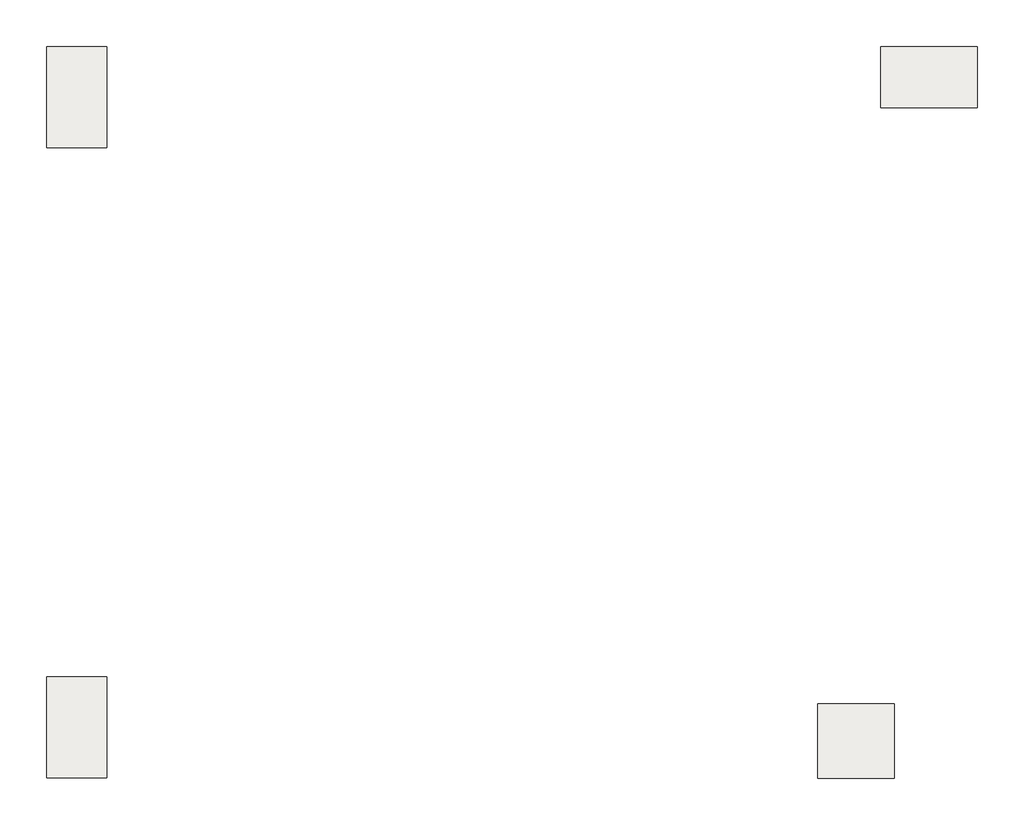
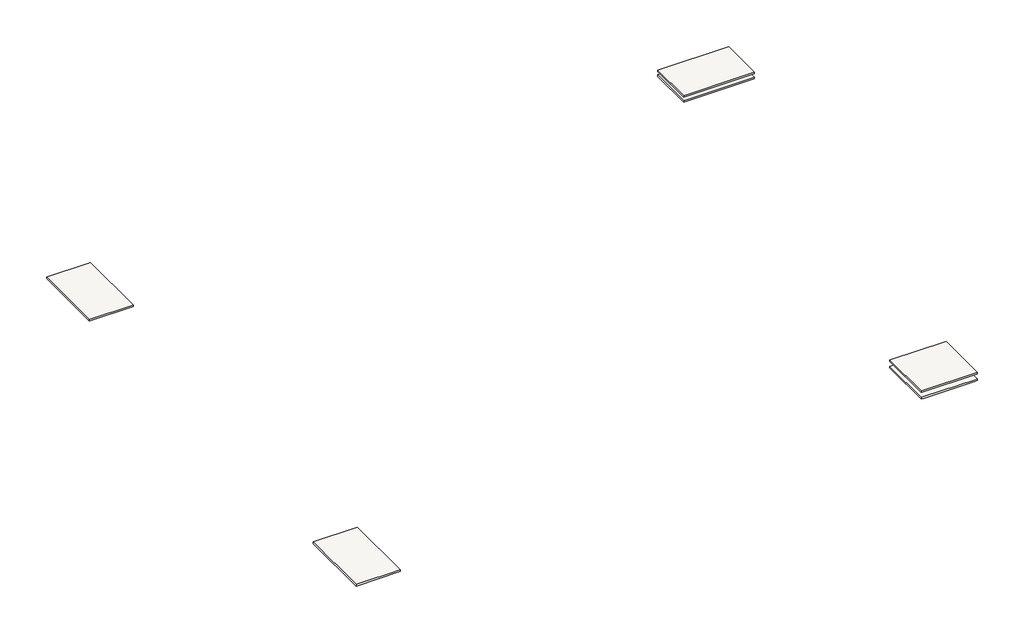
# One storey: 6 slabs.
"""IFC4 building model written with IfcOpenShell, lengths in millimetres."""

from ifc_helpers import new_model, si_unit, frame, origin, place, context, project, spatial, polyline, outline, extrude, faceted_brep, element, save

model = new_model("IFC4")

# Units and contexts
model_context = context("Model", 3, world=origin())
ifc_project = project(units=[si_unit("LENGTHUNIT", "METRE", prefix="MILLI")], contexts=[model_context])

# Site, building, storey
site = spatial("IfcSite", under=ifc_project)
building = spatial("IfcBuilding", under=site)
storey = spatial("IfcBuildingStorey", under=building, Name="Mumpty", Elevation=17400.0)

# Slabs
placement = place(None, origin())
element("IfcSlab", 1, ObjectType="RCC Slab", at=placement, inside=storey, context=model_context, shape_type="Brep", body=[
    faceted_brep([(28557.4134101, -21057.6148653, 17250.0), (33492.4134101, -21057.6148653, 17250.0), (33492.4134101, -21299.6148653, 17250.0), (33492.4134101, -25834.6148653, 17250.0), (33247.4134101, -25834.6148653, 17250.0), (28799.4134101, -25834.6148653, 17250.0), (28557.4134101, -25834.6148653, 17250.0), (28557.4134101, -21299.6148653, 17250.0), (28557.4134101, -21057.6148653, 17400.0), (28557.4134101, -21299.6148653, 17400.0), (28557.4134101, -25834.6148653, 17400.0), (28799.4134101, -25834.6148653, 17400.0), (33247.4134101, -25834.6148653, 17400.0), (33492.4134101, -25834.6148653, 17400.0), (33492.4134101, -21299.6148653, 17400.0), (33492.4134101, -21057.6148653, 17400.0)], [[[0, 1, 2, 3, 4, 5, 6, 7]], [[8, 9, 10, 11, 12, 13, 14, 15]], [[1, 0, 8, 15]], [[3, 2, 1, 15, 14, 13]], [[6, 5, 4, 3, 13, 12, 11, 10]], [[0, 7, 6, 10, 9, 8]]]),
])
element("IfcSlab", 2, ObjectType="RCC Slab", at=placement, inside=storey, context=model_context, shape_type="SweptSolid", body=[
    extrude(outline(polyline([(28557.4134101, -21057.6148653), (33492.4134101, -21057.6148653), (33492.4134101, -25834.6148653), (28557.4134101, -25834.6148653), (28557.4134101, -21057.6148653)])), frame((0.0, 0.0, 17850.0), z_axis=(0.0, 0.0, 1.0), x_axis=(1.0, 0.0, 0.0)), (0.0, 0.0, 1.0), 150.0),
])
element("IfcSlab", 3, ObjectType="RCC Slab", at=placement, inside=storey, context=model_context, shape_type="SweptSolid", body=[
    extrude(outline(polyline([(-17192.5865899, -25822.6148653), (-21051.0865899, -25822.6148653), (-21051.0865899, -19327.6148653), (-17192.5865899, -19327.6148653), (-17192.5865899, -25822.6148653)])), frame((0.0, 0.0, 17250.0), z_axis=(0.0, 0.0, 1.0), x_axis=(1.0, 0.0, 0.0)), (0.0, 0.0, 1.0), 150.0),
])
element("IfcSlab", 4, ObjectType="RCC Slab", at=placement, inside=storey, context=model_context, shape_type="Brep", body=[
    faceted_brep([(-17192.5865899, 21247.3851347, 17250.0), (-17192.5865899, 14752.3851347, 17250.0), (-17449.5865899, 14752.3851347, 17250.0), (-20909.0865899, 14752.3851347, 17250.0), (-21051.0865899, 14752.3851347, 17250.0), (-21051.0865899, 21247.3851347, 17250.0), (-20909.0865899, 21247.3851347, 17250.0), (-17449.5865899, 21247.3851347, 17250.0), (-17192.5865899, 21247.3851347, 17400.0), (-17449.5865899, 21247.3851347, 17400.0), (-20909.0865899, 21247.3851347, 17400.0), (-21051.0865899, 21247.3851347, 17400.0), (-21051.0865899, 14752.3851347, 17400.0), (-20909.0865899, 14752.3851347, 17400.0), (-17449.5865899, 14752.3851347, 17400.0), (-17192.5865899, 14752.3851347, 17400.0)], [[[0, 1, 2, 3, 4, 5, 6, 7]], [[8, 9, 10, 11, 12, 13, 14, 15]], [[1, 0, 8, 15]], [[4, 3, 2, 1, 15, 14, 13, 12]], [[5, 4, 12, 11]], [[0, 7, 6, 5, 11, 10, 9, 8]]]),
])
element("IfcSlab", 5, ObjectType="RCC Slab", at=placement, inside=storey, context=model_context, shape_type="SweptSolid", body=[
    extrude(outline(polyline([(32604.4134101, 21259.3851347), (38834.4134101, 21259.3851347), (38834.4134101, 17322.3851347), (32604.4134101, 17322.3851347), (32604.4134101, 21259.3851347)])), frame((0.0, 0.0, 17250.0), z_axis=(0.0, 0.0, 1.0), x_axis=(1.0, 0.0, 0.0)), (0.0, 0.0, 1.0), 150.0),
])
element("IfcSlab", 6, ObjectType="RCC Slab", at=placement, inside=storey, context=model_context, shape_type="SweptSolid", body=[
    extrude(outline(polyline([(32604.4134101, 21259.3851347), (38834.4134101, 21259.3851347), (38834.4134101, 17322.3851347), (32604.4134101, 17322.3851347), (32604.4134101, 21259.3851347)])), frame((0.0, 0.0, 17700.0), z_axis=(0.0, 0.0, 1.0), x_axis=(1.0, 0.0, 0.0)), (0.0, 0.0, 1.0), 150.0),
])

save(model, "model.ifc")
